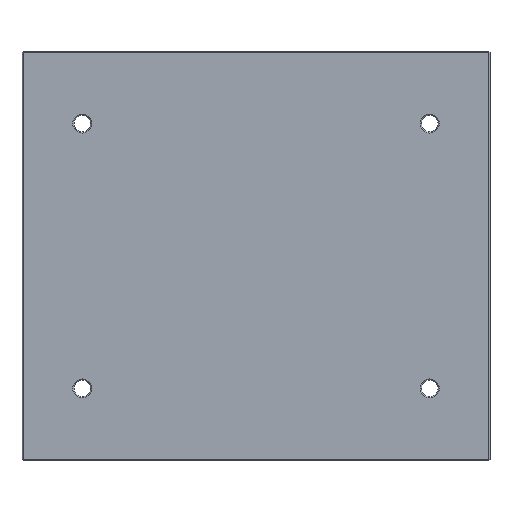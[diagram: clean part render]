
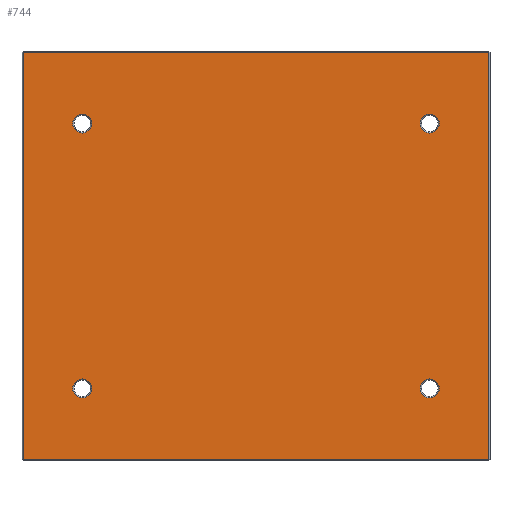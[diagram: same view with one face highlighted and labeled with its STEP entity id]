
A CAD part, front view. The second image highlights one B-rep face of the part: STEP entity #744.
In plain terms, the highlighted planar face has unit normal (0, -1, 0).
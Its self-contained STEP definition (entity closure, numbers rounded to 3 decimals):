
#41 = ORIENTED_EDGE ( 'NONE', *, *, #794, .T. ) ;
#64 = EDGE_CURVE ( 'NONE', #1558, #559, #406, .T. ) ;
#66 = AXIS2_PLACEMENT_3D ( 'NONE', #1406, #524, #1293 ) ;
#67 = DIRECTION ( 'NONE',  ( 0., 1., 0. ) ) ;
#73 = ORIENTED_EDGE ( 'NONE', *, *, #291, .T. ) ;
#74 = EDGE_CURVE ( 'NONE', #215, #1126, #770, .T. ) ;
#109 = CARTESIAN_POINT ( 'NONE',  ( -197., 0., 0. ) ) ;
#126 = CARTESIAN_POINT ( 'NONE',  ( 147., 0., 104. ) ) ;
#132 = EDGE_CURVE ( 'NONE', #559, #1558, #729, .T. ) ;
#150 = CARTESIAN_POINT ( 'NONE',  ( 197., 0., -172. ) ) ;
#161 = VECTOR ( 'NONE', #808, 1000. ) ;
#193 = CARTESIAN_POINT ( 'NONE',  ( -197., 0., 172. ) ) ;
#203 = CARTESIAN_POINT ( 'NONE',  ( 147., 0., 120. ) ) ;
#204 = ORIENTED_EDGE ( 'NONE', *, *, #375, .T. ) ;
#215 = VERTEX_POINT ( 'NONE', #193 ) ;
#230 = AXIS2_PLACEMENT_3D ( 'NONE', #1409, #673, #1517 ) ;
#250 = FACE_BOUND ( 'NONE', #1187, .T. ) ;
#266 = EDGE_CURVE ( 'NONE', #1298, #1342, #1103, .T. ) ;
#275 = ORIENTED_EDGE ( 'NONE', *, *, #1367, .T. ) ;
#291 = EDGE_CURVE ( 'NONE', #1342, #1298, #746, .T. ) ;
#368 = VERTEX_POINT ( 'NONE', #377 ) ;
#375 = EDGE_CURVE ( 'NONE', #828, #1605, #623, .T. ) ;
#377 = CARTESIAN_POINT ( 'NONE',  ( 197., 0., 172. ) ) ;
#402 = DIRECTION ( 'NONE',  ( 0., 1., 0. ) ) ;
#406 = CIRCLE ( 'NONE', #407, 8. ) ;
#407 = AXIS2_PLACEMENT_3D ( 'NONE', #1423, #402, #1307 ) ;
#424 = DIRECTION ( 'NONE',  ( 0., 0., 1. ) ) ;
#429 = DIRECTION ( 'NONE',  ( 0., 1., 0. ) ) ;
#433 = CARTESIAN_POINT ( 'NONE',  ( 147., 0., 112. ) ) ;
#445 = CARTESIAN_POINT ( 'NONE',  ( -147., 0., -120. ) ) ;
#452 = DIRECTION ( 'NONE',  ( 0., 1., 0. ) ) ;
#455 = CARTESIAN_POINT ( 'NONE',  ( 147., 0., -104. ) ) ;
#456 = AXIS2_PLACEMENT_3D ( 'NONE', #912, #1608, #779 ) ;
#512 = CIRCLE ( 'NONE', #1291, 8. ) ;
#524 = DIRECTION ( 'NONE',  ( 0., 1., 0. ) ) ;
#537 = DIRECTION ( 'NONE',  ( 0., 0., -1. ) ) ;
#544 = FACE_BOUND ( 'NONE', #1160, .T. ) ;
#559 = VERTEX_POINT ( 'NONE', #891 ) ;
#563 = CARTESIAN_POINT ( 'NONE',  ( -147., 0., -112. ) ) ;
#591 = ORIENTED_EDGE ( 'NONE', *, *, #1208, .T. ) ;
#601 = DIRECTION ( 'NONE',  ( 0., 0., 1. ) ) ;
#623 = CIRCLE ( 'NONE', #230, 8. ) ;
#644 = VERTEX_POINT ( 'NONE', #150 ) ;
#673 = DIRECTION ( 'NONE',  ( 0., 1., 0. ) ) ;
#676 = CARTESIAN_POINT ( 'NONE',  ( 197., 0., 0. ) ) ;
#690 = VERTEX_POINT ( 'NONE', #126 ) ;
#725 = ORIENTED_EDGE ( 'NONE', *, *, #132, .T. ) ;
#729 = CIRCLE ( 'NONE', #1043, 8. ) ;
#730 = DIRECTION ( 'NONE',  ( 0., 1., 0. ) ) ;
#734 = CARTESIAN_POINT ( 'NONE',  ( 147., 0., 112. ) ) ;
#740 = EDGE_CURVE ( 'NONE', #368, #215, #1531, .T. ) ;
#741 = AXIS2_PLACEMENT_3D ( 'NONE', #911, #67, #1042 ) ;
#744 = ADVANCED_FACE ( 'NONE', ( #1570, #544, #250, #1493, #1207 ), #1627, .F. ) ;
#746 = CIRCLE ( 'NONE', #921, 8. ) ;
#770 = LINE ( 'NONE', #109, #1082 ) ;
#772 = CARTESIAN_POINT ( 'NONE',  ( -147., 0., 104. ) ) ;
#779 = DIRECTION ( 'NONE',  ( 0., 0., 1. ) ) ;
#781 = DIRECTION ( 'NONE',  ( 0., 1., 0. ) ) ;
#794 = EDGE_CURVE ( 'NONE', #1605, #828, #1355, .T. ) ;
#808 = DIRECTION ( 'NONE',  ( -1., 0., 0. ) ) ;
#828 = VERTEX_POINT ( 'NONE', #772 ) ;
#862 = ORIENTED_EDGE ( 'NONE', *, *, #74, .T. ) ;
#891 = CARTESIAN_POINT ( 'NONE',  ( -147., 0., -104. ) ) ;
#895 = ORIENTED_EDGE ( 'NONE', *, *, #1495, .T. ) ;
#905 = EDGE_LOOP ( 'NONE', ( #1346, #1292, #862, #591 ) ) ;
#911 = CARTESIAN_POINT ( 'NONE',  ( 147., 0., -112. ) ) ;
#912 = CARTESIAN_POINT ( 'NONE',  ( -147., 0., 112. ) ) ;
#921 = AXIS2_PLACEMENT_3D ( 'NONE', #1497, #781, #1610 ) ;
#946 = DIRECTION ( 'NONE',  ( 0., 0., 1. ) ) ;
#1027 = EDGE_LOOP ( 'NONE', ( #1162, #73 ) ) ;
#1028 = LINE ( 'NONE', #1075, #1238 ) ;
#1042 = DIRECTION ( 'NONE',  ( 0., 0., 1. ) ) ;
#1043 = AXIS2_PLACEMENT_3D ( 'NONE', #563, #452, #1462 ) ;
#1075 = CARTESIAN_POINT ( 'NONE',  ( 0., 0., -172. ) ) ;
#1082 = VECTOR ( 'NONE', #537, 1000. ) ;
#1103 = CIRCLE ( 'NONE', #741, 8. ) ;
#1126 = VERTEX_POINT ( 'NONE', #1206 ) ;
#1154 = EDGE_LOOP ( 'NONE', ( #1343, #725 ) ) ;
#1160 = EDGE_LOOP ( 'NONE', ( #895, #275 ) ) ;
#1162 = ORIENTED_EDGE ( 'NONE', *, *, #266, .T. ) ;
#1163 = VECTOR ( 'NONE', #946, 1000. ) ;
#1187 = EDGE_LOOP ( 'NONE', ( #204, #41 ) ) ;
#1191 = CARTESIAN_POINT ( 'NONE',  ( 0., 0., 172. ) ) ;
#1205 = LINE ( 'NONE', #676, #1163 ) ;
#1206 = CARTESIAN_POINT ( 'NONE',  ( -197., 0., -172. ) ) ;
#1207 = FACE_OUTER_BOUND ( 'NONE', #905, .T. ) ;
#1208 = EDGE_CURVE ( 'NONE', #1126, #644, #1028, .T. ) ;
#1238 = VECTOR ( 'NONE', #1631, 1000. ) ;
#1249 = EDGE_CURVE ( 'NONE', #644, #368, #1205, .T. ) ;
#1291 = AXIS2_PLACEMENT_3D ( 'NONE', #433, #429, #424 ) ;
#1292 = ORIENTED_EDGE ( 'NONE', *, *, #740, .T. ) ;
#1293 = DIRECTION ( 'NONE',  ( 0., 0., 1. ) ) ;
#1298 = VERTEX_POINT ( 'NONE', #1463 ) ;
#1307 = DIRECTION ( 'NONE',  ( 0., 0., 1. ) ) ;
#1319 = CIRCLE ( 'NONE', #1509, 8. ) ;
#1342 = VERTEX_POINT ( 'NONE', #455 ) ;
#1343 = ORIENTED_EDGE ( 'NONE', *, *, #64, .T. ) ;
#1346 = ORIENTED_EDGE ( 'NONE', *, *, #1249, .T. ) ;
#1355 = CIRCLE ( 'NONE', #456, 8. ) ;
#1356 = CARTESIAN_POINT ( 'NONE',  ( -147., 0., 120. ) ) ;
#1367 = EDGE_CURVE ( 'NONE', #1563, #690, #1319, .T. ) ;
#1406 = CARTESIAN_POINT ( 'NONE',  ( 0., 0., 0. ) ) ;
#1409 = CARTESIAN_POINT ( 'NONE',  ( -147., 0., 112. ) ) ;
#1423 = CARTESIAN_POINT ( 'NONE',  ( -147., 0., -112. ) ) ;
#1462 = DIRECTION ( 'NONE',  ( 0., 0., 1. ) ) ;
#1463 = CARTESIAN_POINT ( 'NONE',  ( 147., 0., -120. ) ) ;
#1493 = FACE_BOUND ( 'NONE', #1154, .T. ) ;
#1495 = EDGE_CURVE ( 'NONE', #690, #1563, #512, .T. ) ;
#1497 = CARTESIAN_POINT ( 'NONE',  ( 147., 0., -112. ) ) ;
#1509 = AXIS2_PLACEMENT_3D ( 'NONE', #734, #730, #601 ) ;
#1517 = DIRECTION ( 'NONE',  ( 0., 0., 1. ) ) ;
#1531 = LINE ( 'NONE', #1191, #161 ) ;
#1558 = VERTEX_POINT ( 'NONE', #445 ) ;
#1563 = VERTEX_POINT ( 'NONE', #203 ) ;
#1570 = FACE_BOUND ( 'NONE', #1027, .T. ) ;
#1605 = VERTEX_POINT ( 'NONE', #1356 ) ;
#1608 = DIRECTION ( 'NONE',  ( 0., 1., 0. ) ) ;
#1610 = DIRECTION ( 'NONE',  ( 0., 0., 1. ) ) ;
#1627 = PLANE ( 'NONE',  #66 ) ;
#1631 = DIRECTION ( 'NONE',  ( 1., 0., 0. ) ) ;
